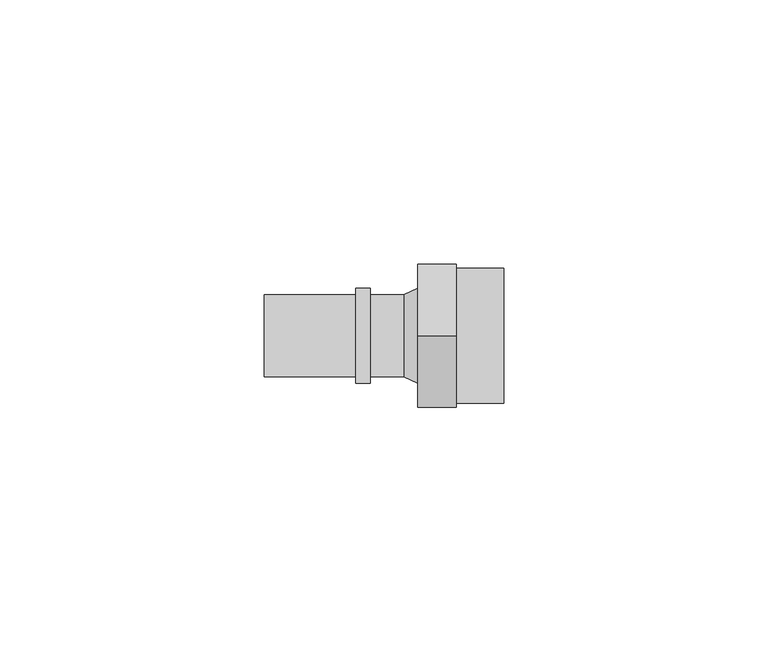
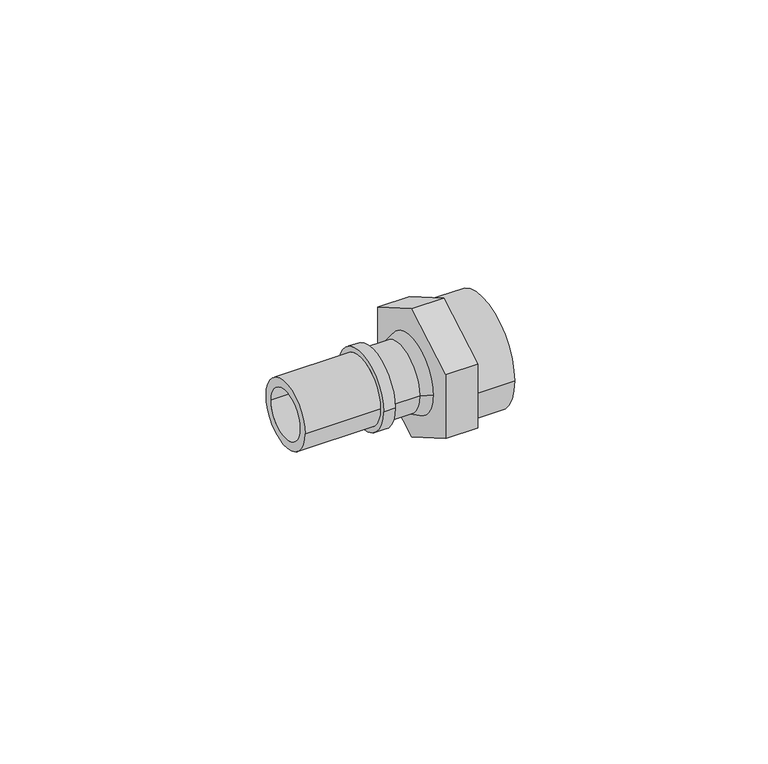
"""IFC4 building model written with IfcOpenShell, lengths in millimetres: pipe fitting geometry, FASTLOC_Adapter_LX, with internal thread : FSL A internal PL."""

from ifc_helpers import new_model, si_unit, point, frame, origin, origin_2d, place, context, project, spatial, polyline, circle_curve, trimmed, segment, composite_curve, outline, extrude, source, transform, mapped, element, save
from ifc_brep_helpers import plane_surface, cylinder_surface, revolved_surface, advanced_brep


def pipe_fitting_df035500(model_context):
    return source(origin(), model_context, "Body", "SolidModel", [
        extrude(outline(composite_curve([segment(trimmed(circle_curve(origin_2d(), 12.75), [point((-12.75, 0.0))], [point((12.75, 0.0))], False, "CARTESIAN"), True, "CONTINUOUS"), segment(trimmed(circle_curve(origin_2d(), 12.75), [point((12.75, 0.0))], [point((-12.75, 0.0))], False, "CARTESIAN"), True, "CONTINUOUS")], self_intersect=False), holes=[composite_curve([segment(trimmed(circle_curve(origin_2d(), 9.35), [point((-9.35, 0.0))], [point((9.35, 0.0))], True, "CARTESIAN"), True, "CONTINUOUS"), segment(trimmed(circle_curve(origin_2d(), 9.35), [point((9.35, 0.0))], [point((-9.35, 0.0))], True, "CARTESIAN"), True, "CONTINUOUS")], self_intersect=False)]), frame((7.3, 0.0, 0.0), z_axis=(1.0, 0.0, 0.0), x_axis=(0.0, 1.0, 0.0)), (0.0, 0.0, 1.0), 8.9),
        extrude(outline(polyline([(0.0, -15.5884573), (-13.5, -7.7942286), (-13.5, 7.7942286), (0.0, 15.5884573), (13.5, 7.7942286), (13.5, -7.7942286), (0.0, -15.5884573)]), holes=[composite_curve([segment(trimmed(circle_curve(origin_2d(), 5.75), [point((-5.75, 0.0))], [point((5.75, 0.0))], True, "CARTESIAN"), True, "CONTINUOUS"), segment(trimmed(circle_curve(origin_2d(), 5.75), [point((5.75, 0.0))], [point((-5.75, 0.0))], True, "CARTESIAN"), True, "CONTINUOUS")], self_intersect=False)]), frame((0.0, 0.0, 0.0), z_axis=(1.0, 0.0, 0.0), x_axis=(0.0, 1.0, 0.0)), (0.0, 0.0, 1.0), 7.3),
        advanced_brep(
        [(-11.7, 7.75, 0.0), (-11.7, -7.75, 0.0), (-29.0, -7.75, 0.0), (-29.0, 7.75, 0.0), (-9.0, 9.0, 0.0), (-9.0, -9.0, 0.0), (-11.7, -9.0, 0.0), (-11.7, 9.0, 0.0), (-2.7, 7.75, 0.0), (-2.7, -7.75, 0.0), (-9.0, -7.75, 0.0), (-9.0, 7.75, 0.0), (0.0, 9.0, 0.0), (0.0, -9.0, 0.0), (-29.0, 5.75, 0.0), (-29.0, -5.75, 0.0), (0.0, -5.75, 0.0), (0.0, 5.75, 0.0)],
        [
            (0, 1, circle_curve(frame((-11.7, 0.0, 0.0), z_axis=(-1.0, 0.0, 0.0), x_axis=(0.0, -1.0, 0.0)), 7.75)),
            (1, 2),
            (2, 3, circle_curve(frame((-29.0, 0.0, 0.0), z_axis=(1.0, 0.0, 0.0), x_axis=(0.0, -1.0, 0.0)), 7.75)),
            (3, 0),
            (4, 5, circle_curve(frame((-9.0, 0.0, 0.0), z_axis=(-1.0, 0.0, 0.0), x_axis=(0.0, -1.0, 0.0)), 9.0)),
            (5, 6),
            (6, 7, circle_curve(frame((-11.7, 0.0, 0.0), z_axis=(1.0, 0.0, 0.0), x_axis=(0.0, -1.0, 0.0)), 9.0)),
            (7, 4),
            (8, 9, circle_curve(frame((-2.7, 0.0, 0.0), z_axis=(-1.0, 0.0, 0.0), x_axis=(0.0, -1.0, 0.0)), 7.75)),
            (9, 10),
            (10, 11, circle_curve(frame((-9.0, 0.0, 0.0), z_axis=(1.0, 0.0, 0.0), x_axis=(0.0, -1.0, 0.0)), 7.75)),
            (11, 8),
            (12, 13, circle_curve(frame((0.0, 0.0, 0.0), z_axis=(-1.0, 0.0, 0.0), x_axis=(0.0, -1.0, 0.0)), 9.0)),
            (13, 9),
            (8, 12),
            (14, 15, circle_curve(frame((-29.0, 0.0, 0.0), z_axis=(-1.0, 0.0, 0.0), x_axis=(0.0, -1.0, 0.0)), 5.75)),
            (15, 16),
            (16, 17, circle_curve(frame((0.0, 0.0, 0.0), z_axis=(1.0, 0.0, 0.0), x_axis=(0.0, -1.0, 0.0)), 5.75)),
            (17, 14),
            (2, 3, circle_curve(frame((-29.0, 0.0, 0.0), z_axis=(-1.0, 0.0, 0.0), x_axis=(0.0, 1.0, 0.0)), 7.75)),
            (14, 15, circle_curve(frame((-29.0, 0.0, 0.0), z_axis=(1.0, 0.0, 0.0), x_axis=(0.0, 1.0, 0.0)), 5.75)),
            (1, 0, circle_curve(frame((-11.7, 0.0, 0.0), z_axis=(-1.0, 0.0, 0.0), x_axis=(0.0, 1.0, 0.0)), 7.75)),
            (6, 7, circle_curve(frame((-11.7, 0.0, 0.0), z_axis=(-1.0, 0.0, 0.0), x_axis=(0.0, 1.0, 0.0)), 9.0)),
            (5, 4, circle_curve(frame((-9.0, 0.0, 0.0), z_axis=(-1.0, 0.0, 0.0), x_axis=(0.0, 1.0, 0.0)), 9.0)),
            (10, 11, circle_curve(frame((-9.0, 0.0, 0.0), z_axis=(-1.0, 0.0, 0.0), x_axis=(0.0, 1.0, 0.0)), 7.75)),
            (9, 8, circle_curve(frame((-2.7, 0.0, 0.0), z_axis=(-1.0, 0.0, 0.0), x_axis=(0.0, 1.0, 0.0)), 7.75)),
            (13, 12, circle_curve(frame((0.0, 0.0, 0.0), z_axis=(-1.0, 0.0, 0.0), x_axis=(0.0, 1.0, 0.0)), 9.0)),
            (16, 17, circle_curve(frame((0.0, 0.0, 0.0), z_axis=(-1.0, 0.0, 0.0), x_axis=(0.0, 1.0, 0.0)), 5.75)),
        ],
        [
            cylinder_surface(frame((0.0, 0.0, 0.0), z_axis=(1.0, 0.0, 0.0), x_axis=(0.0, -1.0, 0.0)), 7.75),
            cylinder_surface(frame((0.0, 0.0, 0.0), z_axis=(1.0, 0.0, 0.0), x_axis=(0.0, -1.0, 0.0)), 9.0),
            revolved_surface(polyline([(-2.7, -7.75, 0.0), (0.0, -9.0, 0.0)]), (0.0, 0.0, 0.0), (1.0, 0.0, 0.0)),
            revolved_surface(polyline([(0.0, -5.75, 0.0), (-29.0, -5.75, 0.0)]), (0.0, 0.0, 0.0), (1.0, 0.0, 0.0)),
            plane_surface(frame((-29.0, 0.0, 0.0), z_axis=(-1.0, 0.0, 0.0), x_axis=(0.0, 1.0, 0.0))),
            cylinder_surface(frame((0.0, 0.0, 0.0), z_axis=(1.0, 0.0, 0.0), x_axis=(0.0, 1.0, 0.0)), 7.75),
            plane_surface(frame((-11.7, 0.0, 0.0), z_axis=(-1.0, 0.0, 0.0), x_axis=(0.0, 1.0, 0.0))),
            cylinder_surface(frame((0.0, 0.0, 0.0), z_axis=(1.0, 0.0, 0.0), x_axis=(0.0, 1.0, 0.0)), 9.0),
            plane_surface(frame((-9.0, 0.0, 0.0), z_axis=(1.0, 0.0, 0.0), x_axis=(0.0, 1.0, 0.0))),
            revolved_surface(polyline([(-2.7, 7.75, 0.0), (0.0, 9.0, 0.0)]), (0.0, 0.0, 0.0), (1.0, 0.0, 0.0)),
            plane_surface(frame((0.0, 0.0, 0.0), z_axis=(1.0, 0.0, 0.0), x_axis=(0.0, 1.0, 0.0))),
            revolved_surface(polyline([(0.0, 5.75, 0.0), (-29.0, 5.75, 0.0)]), (0.0, 0.0, 0.0), (1.0, 0.0, 0.0)),
        ],
        [
            (0, [[1, 2, 3, 4]]),
            (1, [[5, 6, 7, 8]]),
            (0, [[9, 10, 11, 12]]),
            (2, [[13, 14, -9, 15]]),
            (3, [[16, 17, 18, 19]]),
            (4, [[20, -3], [21, -16]]),
            (5, [[22, -4, -20, -2]]),
            (6, [[23, -7], [-22, -1]]),
            (7, [[24, -8, -23, -6]]),
            (8, [[-24, -5], [25, -11]]),
            (5, [[26, -12, -25, -10]]),
            (9, [[27, -15, -26, -14]]),
            (10, [[-27, -13], [28, -18]]),
            (11, [[-21, -19, -28, -17]]),
        ],
    ),
    ])


if __name__ == "__main__":
    model = new_model("IFC4")
    model_context = context("Model", 3, world=origin())
    ifc_project = project(units=[si_unit("LENGTHUNIT", "METRE", prefix="MILLI")], contexts=[model_context])
    site = spatial("IfcSite", under=ifc_project)
    building = spatial("IfcBuilding", under=site)
    placement = place(None, origin())
    pipe_fitting_shape = pipe_fitting_df035500(model_context)
    element("IfcPipeFitting", 1, ObjectType="FASTLOC_Adapter_LX, with internal thread : FSL A internal PL", at=placement, inside=building, context=model_context, shape_type="MappedRepresentation", body=[
        mapped(pipe_fitting_shape, transform((0.0, 0.0, 0.0), x_axis=(1.0, 0.0, 0.0), y_axis=(0.0, 1.0, 0.0), z_axis=(0.0, 0.0, 1.0))),
    ])
    save(model, "model.ifc")
